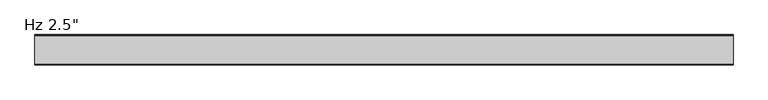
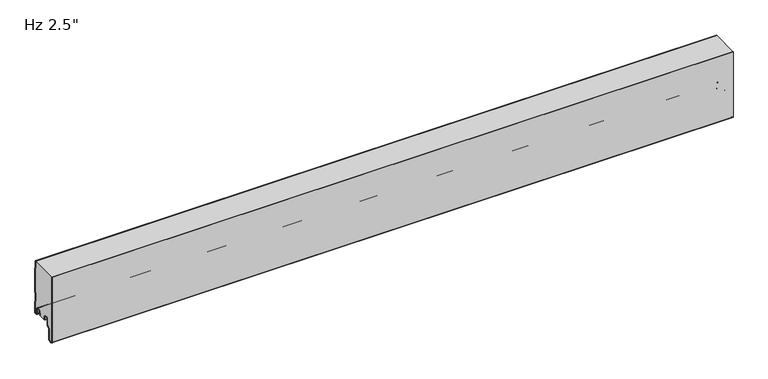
"""IFC4 building model written with IfcOpenShell, lengths in millimetres: plate geometry."""

from ifc_helpers import new_model, si_unit, point, frame, frame_2d, origin, place, context, project, spatial, polyline, circle_curve, trimmed, segment, composite_curve, outline, extrude, source, transform, mapped, element, save
from ifc_brep_helpers import plane_surface, cylinder_surface, revolved_surface, advanced_brep


def plate_418471fe(model_context):
    return source(origin(), model_context, "Body", "SolidModel", [
        advanced_brep(
        [(-730.0, -17.0015159, 2.0313088), (-730.0, -18.0015191, 1.0313116), (-730.0, -19.0015105, 2.0313088), (-730.0, -19.0015105, 6.0315125), (-730.0, -18.0015159, 6.0315125), (-730.0, -18.0015159, 8.7237223), (-730.0, -14.7015202, 12.023718), (-730.0, -10.301529, 12.023718), (-730.0, -7.0015335, 8.7237225), (-730.0, -7.0015335, -1.6962564), (-730.0, -5.2315393, -3.4662506), (-730.0, -0.9999916, -3.4662506), (-730.0, -0.9999916, 21.034026), (-730.0, -2.2002307, 22.4196686), (-730.0, -2.2002307, 41.7948349), (-730.0, -1.0, 43.1804679), (-730.0, -1.0, 97.2338833), (-730.0, -2.2002307, 98.6195162), (-730.0, -2.2002307, 114.0), (-730.0, -1.2002307, 114.0), (-730.0, -1.2002307, 98.9923967), (-730.0, -0.3417885, 98.001349), (-730.0, 0.0, 97.0847321), (-730.0, 0.0, 43.329619), (-730.0, -0.3417885, 42.4130021), (-730.0, -1.2002307, 41.4219545), (-730.0, -1.2002307, 22.7925491), (-730.0, -0.3417885, 21.8015014), (-730.0, 0.0, 20.8847931), (-730.0, 8.4e-06, -3.0662545), (-730.0, -1.3999878, -4.4662506), (-730.0, -5.2315393, -4.4662506), (-730.0, -8.0015335, -1.6962564), (-730.0, -8.0015335, 8.7237225), (-730.0, -10.301529, 11.023718), (-730.0, -14.7015202, 11.023718), (-730.0, -17.0015159, 8.7237223), (730.0, -17.0015159, 2.0313088), (730.0, -17.0015159, 8.7237223), (730.0, -14.7015202, 11.023718), (730.0, -10.301529, 11.023718), (730.0, -8.0015335, 8.7237225), (730.0, -8.0015335, -1.6962564), (730.0, -5.2315393, -4.4662506), (730.0, -1.3999878, -4.4662506), (730.0, 8.4e-06, -3.0662545), (730.0, 8.4e-06, 20.8848845), (730.0, -0.3417885, 21.8015014), (730.0, -1.2002307, 22.7925491), (730.0, -1.2002307, 41.4219545), (730.0, -0.3417885, 42.4130021), (730.0, 0.0, 43.329619), (730.0, 0.0, 97.0847321), (730.0, -0.3417885, 98.001349), (730.0, -1.2002307, 98.9923967), (730.0, -1.2002307, 114.0), (730.0, -2.2002307, 114.0), (730.0, -2.2002307, 98.6195162), (730.0, -1.0, 97.2338833), (730.0, -1.0, 43.1804679), (730.0, -2.2002307, 41.7948349), (730.0, -2.2002307, 22.4196686), (730.0, -0.9999916, 21.034026), (730.0, -0.9999916, -3.4662506), (730.0, -5.2315393, -3.4662506), (730.0, -7.0015335, -1.6962564), (730.0, -7.0015335, 8.7237225), (730.0, -10.301529, 12.023718), (730.0, -14.7015202, 12.023718), (730.0, -18.0015159, 8.7237223), (730.0, -18.0015159, 6.0315125), (730.0, -19.0015105, 6.0315125), (730.0, -19.0015105, 2.0313088), (730.0, -18.0015192, 1.0313116)],
        [
            (0, 1, circle_curve(frame((-730.0, -18.0015132, 2.0313088), z_axis=(-1.0, 0.0, 0.0), x_axis=(0.0, 0.0, 1.0)), 0.9999973)),
            (1, 2, circle_curve(frame((-730.0, -18.0015133, 2.0313088), z_axis=(-1.0, 0.0, 0.0), x_axis=(0.0, 0.0, 1.0)), 0.9999972)),
            (2, 3),
            (3, 4),
            (4, 5),
            (5, 6, circle_curve(frame((-730.0, -14.7015202, 8.7237223), z_axis=(-1.0, 0.0, 0.0), x_axis=(0.0, 0.0, 1.0)), 3.2999957)),
            (6, 7),
            (7, 8, circle_curve(frame((-730.0, -10.301529, 8.7237225), z_axis=(-1.0, 0.0, 0.0), x_axis=(0.0, 0.0, 1.0)), 3.2999955)),
            (8, 9),
            (9, 10, circle_curve(frame((-730.0, -5.2315393, -1.6962564), z_axis=(1.0, 0.0, 0.0), x_axis=(0.0, 0.0, 1.0)), 1.7699942)),
            (10, 11),
            (11, 12),
            (12, 13),
            (13, 14),
            (14, 15),
            (15, 16),
            (16, 17),
            (17, 18),
            (18, 19),
            (19, 20),
            (20, 21),
            (21, 22, circle_curve(frame((-730.0, -1.3999972, 97.0847321), z_axis=(-1.0, 0.0, 0.0), x_axis=(0.0, 0.0, 1.0)), 1.3999972)),
            (22, 23),
            (23, 24, circle_curve(frame((-730.0, -1.3999972, 43.329619), z_axis=(-1.0, 0.0, 0.0), x_axis=(0.0, 0.0, 1.0)), 1.3999972)),
            (24, 25),
            (25, 26),
            (26, 27),
            (27, 28, circle_curve(frame((-730.0, -1.3999972, 20.8848845), z_axis=(-1.0, 0.0, 0.0), x_axis=(0.0, 0.0, 1.0)), 1.3999972)),
            (28, 29),
            (29, 30, circle_curve(frame((-730.0, -1.3999878, -3.0662545), z_axis=(-1.0, 0.0, 0.0), x_axis=(0.0, 0.0, 1.0)), 1.3999962)),
            (30, 31),
            (31, 32, circle_curve(frame((-730.0, -5.2315393, -1.6962564), z_axis=(-1.0, 0.0, 0.0), x_axis=(0.0, 0.0, 1.0)), 2.7699942)),
            (32, 33),
            (33, 34, circle_curve(frame((-730.0, -10.301529, 8.7237225), z_axis=(1.0, 0.0, 0.0), x_axis=(0.0, 0.0, 1.0)), 2.2999955)),
            (34, 35),
            (35, 36, circle_curve(frame((-730.0, -14.7015202, 8.7237223), z_axis=(1.0, 0.0, 0.0), x_axis=(0.0, 0.0, 1.0)), 2.2999957)),
            (36, 0),
            (37, 38),
            (38, 39, circle_curve(frame((730.0, -14.7015202, 8.7237223), z_axis=(-1.0, 0.0, 0.0), x_axis=(0.0, 0.0, 1.0)), 2.2999957)),
            (39, 40),
            (40, 41, circle_curve(frame((730.0, -10.301529, 8.7237225), z_axis=(-1.0, 0.0, 0.0), x_axis=(0.0, 0.0, 1.0)), 2.2999955)),
            (41, 42),
            (42, 43, circle_curve(frame((730.0, -5.2315393, -1.6962564), z_axis=(1.0, 0.0, 0.0), x_axis=(0.0, 0.0, 1.0)), 2.7699942)),
            (43, 44),
            (44, 45, circle_curve(frame((730.0, -1.3999878, -3.0662545), z_axis=(1.0, 0.0, 0.0), x_axis=(0.0, 0.0, 1.0)), 1.3999962)),
            (45, 46),
            (46, 47, circle_curve(frame((730.0, -1.3999972, 20.8848845), z_axis=(1.0, 0.0, 0.0), x_axis=(0.0, 0.0, 1.0)), 1.3999972)),
            (47, 48),
            (48, 49),
            (49, 50),
            (50, 51, circle_curve(frame((730.0, -1.3999972, 43.329619), z_axis=(1.0, 0.0, 0.0), x_axis=(0.0, 0.0, 1.0)), 1.3999972)),
            (51, 52),
            (52, 53, circle_curve(frame((730.0, -1.3999972, 97.0847321), z_axis=(1.0, 0.0, 0.0), x_axis=(0.0, 0.0, 1.0)), 1.3999972)),
            (53, 54),
            (54, 55),
            (55, 56),
            (56, 57),
            (57, 58),
            (58, 59),
            (59, 60),
            (60, 61),
            (61, 62),
            (62, 63),
            (63, 64),
            (64, 65, circle_curve(frame((730.0, -5.2315393, -1.6962564), z_axis=(-1.0, 0.0, 0.0), x_axis=(0.0, 0.0, 1.0)), 1.7699942)),
            (65, 66),
            (66, 67, circle_curve(frame((730.0, -10.301529, 8.7237225), z_axis=(1.0, 0.0, 0.0), x_axis=(0.0, 0.0, 1.0)), 3.2999955)),
            (67, 68),
            (68, 69, circle_curve(frame((730.0, -14.7015202, 8.7237223), z_axis=(1.0, 0.0, 0.0), x_axis=(0.0, 0.0, 1.0)), 3.2999957)),
            (69, 70),
            (70, 71),
            (71, 72),
            (72, 73, circle_curve(frame((730.0, -18.0015133, 2.0313088), z_axis=(1.0, 0.0, 0.0), x_axis=(0.0, 0.0, 1.0)), 0.9999972)),
            (73, 37, circle_curve(frame((730.0, -18.0015132, 2.0313088), z_axis=(1.0, 0.0, 0.0), x_axis=(0.0, 0.0, 1.0)), 0.9999973)),
            (18, 56),
            (55, 19),
            (36, 38),
            (37, 0),
            (35, 39),
            (34, 40),
            (33, 41),
            (32, 42),
            (31, 43),
            (30, 44),
            (29, 45),
            (28, 46),
            (27, 47),
            (26, 48),
            (25, 49),
            (24, 50),
            (23, 51),
            (22, 52),
            (21, 53),
            (20, 54),
            (17, 57),
            (16, 58),
            (15, 59),
            (14, 60),
            (13, 61),
            (12, 62),
            (11, 63),
            (10, 64),
            (9, 65),
            (8, 66),
            (7, 67),
            (6, 68),
            (5, 69),
            (4, 70),
            (3, 71),
            (2, 72),
            (1, 73),
        ],
        [
            plane_surface(frame((-730.0, 0.0, 381.0), z_axis=(-1.0, 0.0, 0.0), x_axis=(0.0, 1.0, 0.0))),
            plane_surface(frame((730.0, 0.0, 381.0), z_axis=(1.0, 0.0, 0.0), x_axis=(0.0, 1.0, 0.0))),
            plane_surface(frame((730.0, 10.0, 114.0), z_axis=(0.0, 0.0, 1.0), x_axis=(-1.0, 0.0, 0.0))),
            plane_surface(frame((-730.0, -17.0015159, 2.0313088), z_axis=(0.0, 1.0, 0.0), x_axis=(1.0, 0.0, 0.0))),
            revolved_surface(polyline([(730.0, -14.7015202, 11.023718), (-730.0, -14.7015202, 11.023718)]), (-730.0, -14.7015202, 8.7237223), (1.0, 0.0, 0.0)),
            plane_surface(frame((-730.0, -14.7015202, 11.023718), z_axis=(0.0, 0.0, -1.0), x_axis=(1.0, 0.0, 0.0))),
            revolved_surface(polyline([(730.0, -10.301529, 11.023717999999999), (-730.0, -10.301529, 11.023717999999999)]), (-730.0, -10.301529, 8.7237225), (1.0, 0.0, 0.0)),
            plane_surface(frame((-730.0, -8.0015335, 8.7237225), z_axis=(0.0, -1.0, 0.0), x_axis=(1.0, 0.0, 0.0))),
            cylinder_surface(frame((-730.0, -5.2315393, -1.6962564), z_axis=(-1.0, 0.0, 0.0), x_axis=(0.0, 0.0, 1.0)), 2.7699942),
            plane_surface(frame((-730.0, -5.2315393, -4.4662506), z_axis=(0.0, 0.0, -1.0), x_axis=(1.0, 0.0, 0.0))),
            cylinder_surface(frame((-730.0, -1.3999878, -3.0662545), z_axis=(-1.0, 0.0, 0.0), x_axis=(0.0, 0.0, 1.0)), 1.3999962),
            plane_surface(frame((-730.0, 8.4e-06, -3.0662545), z_axis=(0.0, 1.0, 0.0), x_axis=(1.0, 0.0, 0.0))),
            cylinder_surface(frame((-730.0, -1.3999972, 20.8848845), z_axis=(-1.0, 0.0, 0.0), x_axis=(0.0, 0.0, 1.0)), 1.3999972),
            plane_surface(frame((-730.0, -0.3417885, 21.8015014), z_axis=(0.0, 0.755864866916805, 0.6547276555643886), x_axis=(1.0, 0.0, 0.0))),
            plane_surface(frame((-730.0, -1.2002307, 32.1072518), z_axis=(0.0, 1.0, 0.0), x_axis=(1.0, 0.0, 0.0))),
            plane_surface(frame((-730.0, -1.2002307, 41.4219545), z_axis=(0.0, 0.755864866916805, -0.6547276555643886), x_axis=(1.0, 0.0, 0.0))),
            cylinder_surface(frame((-730.0, -1.3999972, 43.329619), z_axis=(-1.0, 0.0, 0.0), x_axis=(0.0, 0.0, 1.0)), 1.3999972),
            plane_surface(frame((-730.0, 0.0, 43.329619), z_axis=(0.0, 1.0, 0.0), x_axis=(1.0, 0.0, 0.0))),
            cylinder_surface(frame((-730.0, -1.3999972, 97.0847321), z_axis=(-1.0, 0.0, 0.0), x_axis=(0.0, 0.0, 1.0)), 1.3999972),
            plane_surface(frame((-730.0, -0.3417885, 98.001349), z_axis=(0.0, 0.755864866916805, 0.6547276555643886), x_axis=(1.0, 0.0, 0.0))),
            plane_surface(frame((-730.0, -1.2002307, 108.3070994), z_axis=(0.0, 1.0, 0.0), x_axis=(1.0, 0.0, 0.0))),
            plane_surface(frame((-730.0, -2.2002307, 117.9946825), z_axis=(0.0, -1.0, 0.0), x_axis=(1.0, 0.0, 0.0))),
            plane_surface(frame((-730.0, -2.2002307, 98.6195162), z_axis=(0.0, -0.755864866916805, -0.6547276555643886), x_axis=(1.0, 0.0, 0.0))),
            plane_surface(frame((-730.0, -1.0, 97.2338833), z_axis=(0.0, -1.0, 0.0), x_axis=(1.0, 0.0, 0.0))),
            plane_surface(frame((-730.0, -1.0, 43.1804679), z_axis=(0.0, -0.755864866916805, 0.6547276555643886), x_axis=(1.0, 0.0, 0.0))),
            plane_surface(frame((-730.0, -2.2002307, 41.7948349), z_axis=(0.0, -1.0, 0.0), x_axis=(1.0, 0.0, 0.0))),
            plane_surface(frame((-730.0, -2.2002307, 22.4196686), z_axis=(0.0, -0.755864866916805, -0.6547276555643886), x_axis=(1.0, 0.0, 0.0))),
            plane_surface(frame((-730.0, -0.9999916, 21.034026), z_axis=(0.0, -1.0, 0.0), x_axis=(1.0, 0.0, 0.0))),
            plane_surface(frame((-730.0, -0.9999916, -3.4662506), z_axis=(0.0, 0.0, 1.0), x_axis=(1.0, 0.0, 0.0))),
            revolved_surface(polyline([(730.0, -5.2315393, 0.07373779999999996), (-730.0, -5.2315393, 0.07373779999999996)]), (-730.0, -5.2315393, -1.6962564), (1.0, 0.0, 0.0)),
            plane_surface(frame((-730.0, -7.0015335, -1.6962564), z_axis=(0.0, 1.0, 0.0), x_axis=(1.0, 0.0, 0.0))),
            cylinder_surface(frame((-730.0, -10.301529, 8.7237225), z_axis=(-1.0, 0.0, 0.0), x_axis=(0.0, 0.0, 1.0)), 3.2999955),
            plane_surface(frame((-730.0, -10.301529, 12.023718), z_axis=(0.0, 0.0, 1.0), x_axis=(1.0, 0.0, 0.0))),
            cylinder_surface(frame((-730.0, -14.7015202, 8.7237223), z_axis=(-1.0, 0.0, 0.0), x_axis=(0.0, 0.0, 1.0)), 3.2999957),
            plane_surface(frame((-730.0, -18.0015159, 8.7237223), z_axis=(0.0, -1.0, 0.0), x_axis=(1.0, 0.0, 0.0))),
            plane_surface(frame((-730.0, -18.0015159, 6.0315125), z_axis=(0.0, 0.0, 1.0), x_axis=(1.0, 0.0, 0.0))),
            plane_surface(frame((-730.0, -19.0015105, 6.0315125), z_axis=(0.0, -1.0, 0.0), x_axis=(1.0, 0.0, 0.0))),
            cylinder_surface(frame((-730.0, -18.0015133, 2.0313088), z_axis=(-1.0, 0.0, 0.0), x_axis=(0.0, 0.0, 1.0)), 0.9999972),
            cylinder_surface(frame((-730.0, -18.0015132, 2.0313088), z_axis=(-1.0, 0.0, 0.0), x_axis=(0.0, 0.0, 1.0)), 0.9999973),
        ],
        [
            (0, [[1, 2, 3, 4, 5, 6, 7, 8, 9, 10, 11, 12, 13, 14, 15, 16, 17, 18, 19, 20, 21, 22, 23, 24, 25, 26, 27, 28, 29, 30, 31, 32, 33, 34, 35, 36, 37]]),
            (1, [[38, 39, 40, 41, 42, 43, 44, 45, 46, 47, 48, 49, 50, 51, 52, 53, 54, 55, 56, 57, 58, 59, 60, 61, 62, 63, 64, 65, 66, 67, 68, 69, 70, 71, 72, 73, 74]]),
            (2, [[75, -56, 76, -19]]),
            (3, [[77, -38, 78, -37]]),
            (4, [[79, -39, -77, -36]]),
            (5, [[80, -40, -79, -35]]),
            (6, [[81, -41, -80, -34]]),
            (7, [[82, -42, -81, -33]]),
            (8, [[83, -43, -82, -32]]),
            (9, [[84, -44, -83, -31]]),
            (10, [[85, -45, -84, -30]]),
            (11, [[86, -46, -85, -29]]),
            (12, [[87, -47, -86, -28]]),
            (13, [[88, -48, -87, -27]]),
            (14, [[89, -49, -88, -26]]),
            (15, [[90, -50, -89, -25]]),
            (16, [[91, -51, -90, -24]]),
            (17, [[92, -52, -91, -23]]),
            (18, [[93, -53, -92, -22]]),
            (19, [[94, -54, -93, -21]]),
            (20, [[-20, -76, -55, -94]]),
            (21, [[-57, -75, -18, 95]]),
            (22, [[96, -58, -95, -17]]),
            (23, [[97, -59, -96, -16]]),
            (24, [[98, -60, -97, -15]]),
            (25, [[99, -61, -98, -14]]),
            (26, [[100, -62, -99, -13]]),
            (27, [[101, -63, -100, -12]]),
            (28, [[102, -64, -101, -11]]),
            (29, [[103, -65, -102, -10]]),
            (30, [[104, -66, -103, -9]]),
            (31, [[105, -67, -104, -8]]),
            (32, [[106, -68, -105, -7]]),
            (33, [[107, -69, -106, -6]]),
            (34, [[108, -70, -107, -5]]),
            (35, [[109, -71, -108, -4]]),
            (36, [[110, -72, -109, -3]]),
            (37, [[111, -73, -110, -2]]),
            (38, [[-78, -74, -111, -1]]),
        ],
    ),
        extrude(outline(composite_curve([segment(trimmed(circle_curve(frame_2d((-59.9296795, -32.4521105)), 3.5702393), [point((-59.6184091, -36.0087549))], [point((-63.4999188, -32.4521083))], False, "CARTESIAN"), True, "CONTINUOUS"), segment(polyline([(-63.4999188, -32.4521083), (-63.4998251, 114.0), (-62.4993606, 114.0), (-62.4993606, -32.509446)]), True, "CONTINUOUS"), segment(trimmed(circle_curve(frame_2d((-59.9297607, -32.4521176)), 2.5702393), [point((-62.4993606, -32.509446))], [point((-59.7056751, -35.0125699))], True, "CARTESIAN"), True, "CONTINUOUS"), segment(polyline([(-59.7056751, -35.0125699), (-54.7238542, -34.5765709)]), True, "CONTINUOUS"), segment(trimmed(circle_curve(frame_2d((-55.2052448, -31.9198392)), 2.6999926), [point((-54.7238542, -34.5765709))], [point((-52.5052522, -31.9198392))], True, "CARTESIAN"), True, "CONTINUOUS"), segment(polyline([(-52.5052522, -31.9198392), (-52.5052522, -9.8247096), (-47.0031811, -4.3226385)]), True, "CONTINUOUS"), segment(trimmed(circle_curve(frame_2d((-48.2052588, -3.1205608)), 1.6999946), [point((-47.0031811, -4.3226385))], [point((-46.5052642, -3.1205608))], True, "CARTESIAN"), True, "CONTINUOUS"), segment(polyline([(-46.5052642, -3.1205608), (-46.5052642, 8.6903283)]), True, "CONTINUOUS"), segment(trimmed(circle_curve(frame_2d((-43.1552689, 8.6903283)), 3.3499953), [point((-46.5052642, 8.6903283))], [point((-43.1552689, 12.0403236))], False, "CARTESIAN"), True, "CONTINUOUS"), segment(polyline([(-43.1552689, 12.0403236), (-38.7552777, 12.0403236)]), True, "CONTINUOUS"), segment(trimmed(circle_curve(frame_2d((-38.7552777, 8.6903283)), 3.3499953), [point((-38.7552777, 12.0403236))], [point((-35.4052824, 8.6903283))], False, "CARTESIAN"), True, "CONTINUOUS"), segment(polyline([(-35.4052824, 8.6903283), (-35.4052824, 5.9912173), (-34.0068035, 5.9912173), (-34.0068035, 2.2328239)]), True, "CONTINUOUS"), segment(trimmed(circle_curve(frame_2d((-35.2068002, 2.2313092)), 1.1999976), [point((-34.0068035, 2.2328239))], [point((-35.1762782, 1.0316999))], False, "CARTESIAN"), True, "CONTINUOUS"), segment(trimmed(circle_curve(frame_2d((-35.2068002, 2.2313092)), 1.1999976), [point((-35.1762782, 1.0316999))], [point((-36.4052824, 2.1710221))], False, "CARTESIAN"), True, "CONTINUOUS"), segment(polyline([(-36.4052824, 2.1710221), (-36.4052824, 8.6903283)]), True, "CONTINUOUS"), segment(trimmed(circle_curve(frame_2d((-38.7552777, 8.6903283)), 2.3499953), [point((-36.4052824, 8.6903283))], [point((-38.7552777, 11.0403236))], True, "CARTESIAN"), True, "CONTINUOUS"), segment(polyline([(-38.7552777, 11.0403236), (-43.1552689, 11.0403236)]), True, "CONTINUOUS"), segment(trimmed(circle_curve(frame_2d((-43.1552689, 8.6903283)), 2.3499953), [point((-43.1552689, 11.0403236))], [point((-45.5052642, 8.6903283))], True, "CARTESIAN"), True, "CONTINUOUS"), segment(polyline([(-45.5052642, 8.6903283), (-45.5052642, -3.1205608)]), True, "CONTINUOUS"), segment(trimmed(circle_curve(frame_2d((-48.2052588, -3.1205608)), 2.6999946), [point((-45.5052642, -3.1205608))], [point((-46.2960743, -5.0297453))], False, "CARTESIAN"), True, "CONTINUOUS"), segment(polyline([(-46.2960743, -5.0297453), (-51.1244918, -9.8581627)]), True, "CONTINUOUS"), segment(trimmed(circle_curve(frame_2d((-50.2052548, -10.7773997)), 1.2999974), [point((-51.1244918, -9.8581627))], [point((-51.5052522, -10.7773997))], True, "CARTESIAN"), True, "CONTINUOUS"), segment(polyline([(-51.5052522, -10.7773997), (-51.5052522, -31.9198392)]), True, "CONTINUOUS"), segment(trimmed(circle_curve(frame_2d((-55.2052448, -31.9198392)), 3.6999926), [point((-51.5052522, -31.9198392))], [point((-54.5944437, -35.5690675))], False, "CARTESIAN"), True, "CONTINUOUS"), segment(polyline([(-54.5944437, -35.5690675), (-59.6184091, -36.0087549)]), True, "CONTINUOUS")], self_intersect=False)), frame((-730.0, 0.0, 0.0), z_axis=(1.0, 0.0, 0.0), x_axis=(0.0, 1.0, 0.0)), (0.0, 0.0, 1.0), 1460.0),
        advanced_brep(
        [(-730.0, -35.170875, 1.0316999), (-730.0, -34.0014003, 2.2328239), (-730.0, -34.0014003, 5.9912173), (-730.0, -35.3998791, 5.9912173), (-730.0, -35.3998791, 8.6903283), (-730.0, -38.7498744, 12.0403236), (-730.0, -43.1498656, 12.0403236), (-730.0, -46.4998609, 8.6903283), (-730.0, -46.4998609, -3.1205608), (-730.0, -46.9977778, -4.3226385), (-730.0, -52.4998489, -9.8247096), (-730.0, -52.4998489, -31.9198392), (-730.0, -54.7184509, -34.5765709), (-730.0, -59.7002718, -35.0125699), (-730.0, -62.4945967, -32.4521176), (-730.0, -62.5, 114.0), (-730.0, -2.2002307, 114.0), (-730.0, -2.2002307, 98.6195163), (-730.0, -1.0, 97.2338833), (-730.0, -1.0, 43.1804679), (-730.0, -2.2002307, 41.794835), (-730.0, -2.2002307, 22.4196687), (-730.0, -0.9999916, 21.034026), (-730.0, -0.9999916, -3.4662506), (-730.0, -5.2315389, -3.4662506), (-730.0, -7.0015331, -1.6962564), (-730.0, -7.0015331, 8.7237222), (-730.0, -10.301529, 12.023718), (-730.0, -14.7015202, 12.023718), (-730.0, -18.0015159, 8.7237223), (-730.0, -18.0015159, 6.0315125), (-730.0, -19.0015105, 6.0315125), (-730.0, -19.0015105, 2.0313089), (-730.0, -18.0015192, 1.0313117), (-730.0, -19.0328308, 0.0), (-730.0, -34.1391751, 0.0), (730.0, -35.170875, 1.0316999), (730.0, -34.1391751, 0.0), (730.0, -19.0328308, 0.0), (730.0, -18.0015192, 1.0313117), (730.0, -19.0015105, 2.0313089), (730.0, -19.0015105, 6.0315125), (730.0, -18.0015159, 6.0315125), (730.0, -18.0015159, 8.7237223), (730.0, -14.7015202, 12.023718), (730.0, -10.301529, 12.023718), (730.0, -7.0015331, 8.7237222), (730.0, -7.0015331, -1.6962564), (730.0, -5.2315389, -3.4662506), (730.0, -0.9999916, -3.4662506), (730.0, -0.9999916, 21.034026), (730.0, -2.2002307, 22.4196687), (730.0, -2.2002307, 41.794835), (730.0, -1.0, 43.1804679), (730.0, -1.0, 97.2338833), (730.0, -2.2002307, 98.6195163), (730.0, -2.2002307, 114.0), (730.0, -62.5, 114.0), (730.0, -62.5, -32.4521176), (730.0, -59.7002718, -35.0125699), (730.0, -54.7184509, -34.5765709), (730.0, -52.4998489, -31.9198392), (730.0, -52.4998489, -9.8247096), (730.0, -46.9977778, -4.3226385), (730.0, -46.4998609, -3.1205608), (730.0, -46.4998609, 8.6903283), (730.0, -43.1498656, 12.0403236), (730.0, -38.7498744, 12.0403236), (730.0, -35.3998791, 8.6903283), (730.0, -35.3998791, 5.9912173), (730.0, -34.0014003, 5.9912173), (730.0, -34.0014003, 2.2328239)],
        [
            (0, 1, circle_curve(frame((-730.0, -35.2013969, 2.2313092), z_axis=(1.0, 0.0, 0.0), x_axis=(0.0, 0.0, -1.0)), 1.1999976)),
            (1, 2),
            (2, 3),
            (3, 4),
            (4, 5, circle_curve(frame((-730.0, -38.7498744, 8.6903283), z_axis=(1.0, 0.0, 0.0), x_axis=(0.0, 0.0, -1.0)), 3.3499953)),
            (5, 6),
            (6, 7, circle_curve(frame((-730.0, -43.1498656, 8.6903283), z_axis=(1.0, 0.0, 0.0), x_axis=(0.0, 0.0, -1.0)), 3.3499953)),
            (7, 8),
            (8, 9, circle_curve(frame((-730.0, -48.1998555, -3.1205608), z_axis=(-1.0, 0.0, 0.0), x_axis=(0.0, 0.0, -1.0)), 1.6999946)),
            (9, 10),
            (10, 11),
            (11, 12, circle_curve(frame((-730.0, -55.1998415, -31.9198392), z_axis=(-1.0, 0.0, 0.0), x_axis=(0.0, 0.0, -1.0)), 2.6999926)),
            (12, 13),
            (13, 14, circle_curve(frame((-730.0, -59.9243575, -32.4521176), z_axis=(-1.0, 0.0, 0.0), x_axis=(0.0, 0.0, -1.0)), 2.5702393)),
            (14, 15),
            (15, 16),
            (16, 17),
            (17, 18),
            (18, 19),
            (19, 20),
            (20, 21),
            (21, 22),
            (22, 23),
            (23, 24),
            (24, 25, circle_curve(frame((-730.0, -5.2315389, -1.6962564), z_axis=(-1.0, 0.0, 0.0), x_axis=(0.0, 0.0, 1.0)), 1.7699942)),
            (25, 26),
            (26, 27, circle_curve(frame((-730.0, -10.301529, 8.7237222), z_axis=(1.0, 0.0, 0.0), x_axis=(0.0, 0.0, 1.0)), 3.2999959)),
            (27, 28),
            (28, 29, circle_curve(frame((-730.0, -14.7015202, 8.7237223), z_axis=(1.0, 0.0, 0.0), x_axis=(0.0, 0.0, 1.0)), 3.2999957)),
            (29, 30),
            (30, 31),
            (31, 32),
            (32, 33, circle_curve(frame((-730.0, -18.0015133, 2.0313089), z_axis=(1.0, 0.0, 0.0), x_axis=(0.0, 0.0, 1.0)), 0.9999972)),
            (33, 34),
            (34, 35),
            (35, 0),
            (36, 37),
            (37, 38),
            (38, 39),
            (39, 40, circle_curve(frame((730.0, -18.0015133, 2.0313089), z_axis=(-1.0, 0.0, 0.0), x_axis=(0.0, 0.0, 1.0)), 0.9999972)),
            (40, 41),
            (41, 42),
            (42, 43),
            (43, 44, circle_curve(frame((730.0, -14.7015202, 8.7237223), z_axis=(-1.0, 0.0, 0.0), x_axis=(0.0, 0.0, 1.0)), 3.2999957)),
            (44, 45),
            (45, 46, circle_curve(frame((730.0, -10.301529, 8.7237222), z_axis=(-1.0, 0.0, 0.0), x_axis=(0.0, 0.0, 1.0)), 3.2999959)),
            (46, 47),
            (47, 48, circle_curve(frame((730.0, -5.2315389, -1.6962564), z_axis=(1.0, 0.0, 0.0), x_axis=(0.0, 0.0, 1.0)), 1.7699942)),
            (48, 49),
            (49, 50),
            (50, 51),
            (51, 52),
            (52, 53),
            (53, 54),
            (54, 55),
            (55, 56),
            (56, 57),
            (57, 58),
            (58, 59, circle_curve(frame((730.0, -59.9243575, -32.4521176), z_axis=(1.0, 0.0, 0.0), x_axis=(0.0, 0.0, -1.0)), 2.5702393)),
            (59, 60),
            (60, 61, circle_curve(frame((730.0, -55.1998415, -31.9198392), z_axis=(1.0, 0.0, 0.0), x_axis=(0.0, 0.0, -1.0)), 2.6999926)),
            (61, 62),
            (62, 63),
            (63, 64, circle_curve(frame((730.0, -48.1998555, -3.1205608), z_axis=(1.0, 0.0, 0.0), x_axis=(0.0, 0.0, -1.0)), 1.6999946)),
            (64, 65),
            (65, 66, circle_curve(frame((730.0, -43.1498656, 8.6903283), z_axis=(-1.0, 0.0, 0.0), x_axis=(0.0, 0.0, -1.0)), 3.3499953)),
            (66, 67),
            (67, 68, circle_curve(frame((730.0, -38.7498744, 8.6903283), z_axis=(-1.0, 0.0, 0.0), x_axis=(0.0, 0.0, -1.0)), 3.3499953)),
            (68, 69),
            (69, 70),
            (70, 71),
            (71, 36, circle_curve(frame((730.0, -35.2013969, 2.2313092), z_axis=(-1.0, 0.0, 0.0), x_axis=(0.0, 0.0, -1.0)), 1.1999976)),
            (35, 37),
            (36, 0),
            (34, 38),
            (57, 15),
            (14, 58),
            (13, 59),
            (12, 60),
            (11, 61),
            (10, 62),
            (9, 63),
            (8, 64),
            (7, 65),
            (6, 66),
            (5, 67),
            (4, 68),
            (3, 69),
            (2, 70),
            (1, 71),
            (56, 16),
            (33, 39),
            (32, 40),
            (31, 41),
            (30, 42),
            (29, 43),
            (28, 44),
            (27, 45),
            (26, 46),
            (25, 47),
            (24, 48),
            (23, 49),
            (22, 50),
            (21, 51),
            (20, 52),
            (19, 53),
            (18, 54),
            (17, 55),
        ],
        [
            plane_surface(frame((-730.0, -62.5, 381.0), z_axis=(-1.0, 0.0, 0.0), x_axis=(0.0, -1.0, 0.0))),
            plane_surface(frame((730.0, -62.5, 381.0), z_axis=(1.0, 0.0, 0.0), x_axis=(0.0, -1.0, 0.0))),
            plane_surface(frame((-730.0, -35.170875, 1.0316999), z_axis=(0.0, -0.7071067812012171, -0.707106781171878), x_axis=(1.0, 0.0, 0.0))),
            plane_surface(frame((-730.0, -34.1391751, 0.0), z_axis=(0.0, 0.0, -1.0), x_axis=(1.0, 0.0, 0.0))),
            plane_surface(frame((-730.0, -62.5, 713.515622), z_axis=(0.0, -1.0, 0.0), x_axis=(1.0, 0.0, 0.0))),
            cylinder_surface(frame((-730.0, -59.9243575, -32.4521176), z_axis=(-1.0, 0.0, 0.0), x_axis=(0.0, 0.0, -1.0)), 2.5702393),
            plane_surface(frame((-730.0, -59.7002718, -35.0125699), z_axis=(0.0, 0.08718474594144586, -0.9961921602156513), x_axis=(1.0, 0.0, 0.0))),
            cylinder_surface(frame((-730.0, -55.1998415, -31.9198392), z_axis=(-1.0, 0.0, 0.0), x_axis=(0.0, 0.0, -1.0)), 2.6999926),
            plane_surface(frame((-730.0, -52.4998489, -31.9198392), z_axis=(0.0, 1.0, 0.0), x_axis=(1.0, 0.0, 0.0))),
            plane_surface(frame((-730.0, -52.4998489, -9.8247096), z_axis=(0.0, 0.7071067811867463, -0.7071067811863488), x_axis=(1.0, 0.0, 0.0))),
            cylinder_surface(frame((-730.0, -48.1998555, -3.1205608), z_axis=(-1.0, 0.0, 0.0), x_axis=(0.0, 0.0, -1.0)), 1.6999946),
            plane_surface(frame((-730.0, -46.4998609, -3.1205608), z_axis=(0.0, 1.0, 0.0), x_axis=(1.0, 0.0, 0.0))),
            revolved_surface(polyline([(730.0, -43.1498656, 5.340332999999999), (-730.0, -43.1498656, 5.340332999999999)]), (-730.0, -43.1498656, 8.6903283), (1.0, 0.0, 0.0)),
            plane_surface(frame((-730.0, -43.1498656, 12.0403236), z_axis=(0.0, 0.0, -1.0), x_axis=(1.0, 0.0, 0.0))),
            revolved_surface(polyline([(730.0, -38.7498744, 5.340332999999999), (-730.0, -38.7498744, 5.340332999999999)]), (-730.0, -38.7498744, 8.6903283), (1.0, 0.0, 0.0)),
            plane_surface(frame((-730.0, -35.3998791, 8.6903283), z_axis=(0.0, -1.0, 0.0), x_axis=(1.0, 0.0, 0.0))),
            plane_surface(frame((-730.0, -35.3998791, 5.9912173), z_axis=(0.0, 0.0, -1.0), x_axis=(1.0, 0.0, 0.0))),
            plane_surface(frame((-730.0, -34.0014003, 5.9912173), z_axis=(0.0, -1.0, 0.0), x_axis=(1.0, 0.0, 0.0))),
            revolved_surface(polyline([(730.0, -35.2013969, 1.0313116), (-730.0, -35.2013969, 1.0313116)]), (-730.0, -35.2013969, 2.2313092), (1.0, 0.0, 0.0)),
            plane_surface(frame((730.0, 10.0, 114.0), z_axis=(0.0, 0.0, 1.0), x_axis=(-1.0, 0.0, 0.0))),
            plane_surface(frame((-730.0, -19.0328308, 0.0), z_axis=(0.0, 0.7071067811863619, -0.7071067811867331), x_axis=(1.0, 0.0, 0.0))),
            revolved_surface(polyline([(730.0, -18.0015133, 3.0313061), (-730.0, -18.0015133, 3.0313061)]), (-730.0, -18.0015133, 2.0313089), (1.0, 0.0, 0.0)),
            plane_surface(frame((-730.0, -19.0015105, 2.0313089), z_axis=(0.0, 1.0, 0.0), x_axis=(1.0, 0.0, 0.0))),
            plane_surface(frame((-730.0, -19.0015105, 6.0315125), z_axis=(0.0, 0.0, -1.0), x_axis=(1.0, 0.0, 0.0))),
            plane_surface(frame((-730.0, -18.0015159, 6.0315125), z_axis=(0.0, 1.0, 0.0), x_axis=(1.0, 0.0, 0.0))),
            revolved_surface(polyline([(730.0, -14.7015202, 12.023718), (-730.0, -14.7015202, 12.023718)]), (-730.0, -14.7015202, 8.7237223), (1.0, 0.0, 0.0)),
            plane_surface(frame((-730.0, -14.7015202, 12.023718), z_axis=(0.0, 0.0, -1.0), x_axis=(1.0, 0.0, 0.0))),
            revolved_surface(polyline([(730.0, -10.301529, 12.0237181), (-730.0, -10.301529, 12.0237181)]), (-730.0, -10.301529, 8.7237222), (1.0, 0.0, 0.0)),
            plane_surface(frame((-730.0, -7.0015331, 8.7237222), z_axis=(0.0, -1.0, 0.0), x_axis=(1.0, 0.0, 0.0))),
            cylinder_surface(frame((-730.0, -5.2315389, -1.6962564), z_axis=(-1.0, 0.0, 0.0), x_axis=(0.0, 0.0, 1.0)), 1.7699942),
            plane_surface(frame((-730.0, -5.2315389, -3.4662506), z_axis=(0.0, 0.0, -1.0), x_axis=(1.0, 0.0, 0.0))),
            plane_surface(frame((-730.0, -0.9999916, -3.4662506), z_axis=(0.0, 1.0, 0.0), x_axis=(1.0, 0.0, 0.0))),
            plane_surface(frame((-730.0, -0.9999916, 21.034026), z_axis=(0.0, 0.7558648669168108, 0.6547276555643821), x_axis=(1.0, 0.0, 0.0))),
            plane_surface(frame((-730.0, -2.2002307, 22.4196687), z_axis=(0.0, 1.0, 0.0), x_axis=(1.0, 0.0, 0.0))),
            plane_surface(frame((-730.0, -2.2002307, 41.794835), z_axis=(0.0, 0.7558648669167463, -0.6547276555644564), x_axis=(1.0, 0.0, 0.0))),
            plane_surface(frame((-730.0, -1.0, 43.1804679), z_axis=(0.0, 1.0, 0.0), x_axis=(1.0, 0.0, 0.0))),
            plane_surface(frame((-730.0, -1.0, 97.2338833), z_axis=(0.0, 0.7558648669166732, 0.6547276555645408), x_axis=(1.0, 0.0, 0.0))),
            plane_surface(frame((-730.0, -2.2002307, 98.6195163), z_axis=(0.0, 1.0, 0.0), x_axis=(1.0, 0.0, 0.0))),
        ],
        [
            (0, [[1, 2, 3, 4, 5, 6, 7, 8, 9, 10, 11, 12, 13, 14, 15, 16, 17, 18, 19, 20, 21, 22, 23, 24, 25, 26, 27, 28, 29, 30, 31, 32, 33, 34, 35, 36]]),
            (1, [[37, 38, 39, 40, 41, 42, 43, 44, 45, 46, 47, 48, 49, 50, 51, 52, 53, 54, 55, 56, 57, 58, 59, 60, 61, 62, 63, 64, 65, 66, 67, 68, 69, 70, 71, 72]]),
            (2, [[73, -37, 74, -36]]),
            (3, [[-35, 75, -38, -73]]),
            (4, [[-58, 76, -15, 77]]),
            (5, [[78, -59, -77, -14]]),
            (6, [[79, -60, -78, -13]]),
            (7, [[80, -61, -79, -12]]),
            (8, [[81, -62, -80, -11]]),
            (9, [[82, -63, -81, -10]]),
            (10, [[83, -64, -82, -9]]),
            (11, [[84, -65, -83, -8]]),
            (12, [[85, -66, -84, -7]]),
            (13, [[86, -67, -85, -6]]),
            (14, [[87, -68, -86, -5]]),
            (15, [[88, -69, -87, -4]]),
            (16, [[89, -70, -88, -3]]),
            (17, [[90, -71, -89, -2]]),
            (18, [[-74, -72, -90, -1]]),
            (19, [[-76, -57, 91, -16]]),
            (20, [[92, -39, -75, -34]]),
            (21, [[93, -40, -92, -33]]),
            (22, [[94, -41, -93, -32]]),
            (23, [[95, -42, -94, -31]]),
            (24, [[96, -43, -95, -30]]),
            (25, [[97, -44, -96, -29]]),
            (26, [[98, -45, -97, -28]]),
            (27, [[99, -46, -98, -27]]),
            (28, [[100, -47, -99, -26]]),
            (29, [[101, -48, -100, -25]]),
            (30, [[102, -49, -101, -24]]),
            (31, [[103, -50, -102, -23]]),
            (32, [[104, -51, -103, -22]]),
            (33, [[105, -52, -104, -21]]),
            (34, [[106, -53, -105, -20]]),
            (35, [[107, -54, -106, -19]]),
            (36, [[108, -55, -107, -18]]),
            (37, [[-17, -91, -56, -108]]),
        ],
    ),
    ])


if __name__ == "__main__":
    model = new_model("IFC4")
    model_context = context("Model", 3, world=origin())
    ifc_project = project(units=[si_unit("LENGTHUNIT", "METRE", prefix="MILLI")], contexts=[model_context])
    site = spatial("IfcSite", under=ifc_project)
    building = spatial("IfcBuilding", under=site)
    placement = place(None, origin())
    plate_shape = plate_418471fe(model_context)
    element("IfcPlate", 1, ObjectType="KIP-30-Karrier-KP-R19-CP-Hz-FL3-8in_SL : Hz 2.5\"", at=placement, inside=building, context=model_context, shape_type="MappedRepresentation", body=[
        mapped(plate_shape, transform((0.0, 0.0, 0.0), x_axis=(1.0, 0.0, 0.0), y_axis=(0.0, 1.0, 0.0), z_axis=(0.0, 0.0, 1.0))),
    ])
    save(model, "model.ifc")
